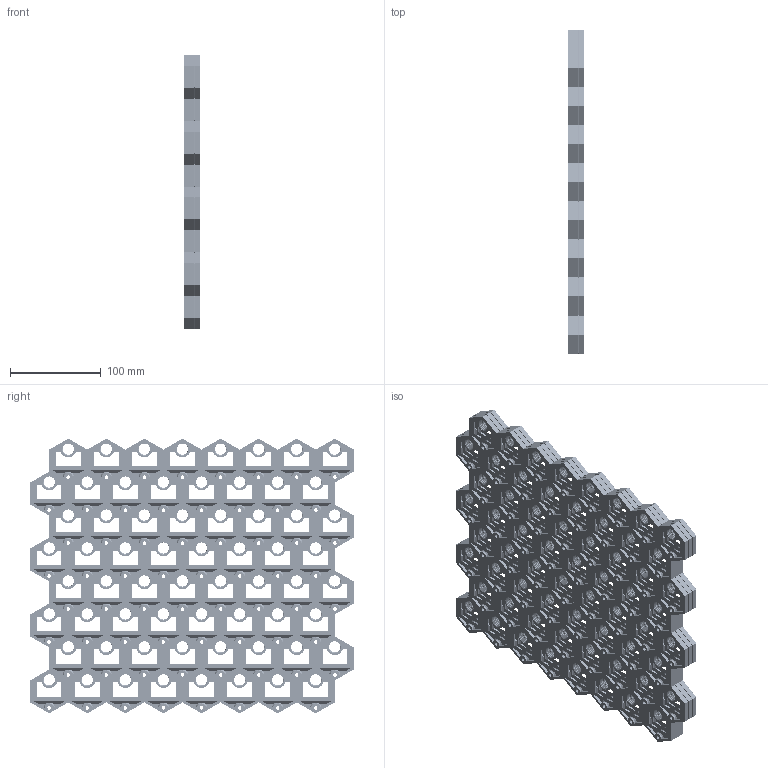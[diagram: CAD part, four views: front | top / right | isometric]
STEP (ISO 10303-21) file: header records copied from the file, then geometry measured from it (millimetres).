
FILE_DESCRIPTION(/* description */ ('','CAx-IF Rec.Pracs.---Representation and Presentation of Product Manufacturing Information (PMI)---4.0---2014-10-13'),/* implementation_level */ '2;1');
FILE_NAME(/* name */ 'GOEWS 8x8 Tile Stack with 0.2 Gaps.step',/* time_stamp */ '2024-11-29T15:34:54-05:00',/* author */ (''),/* organization */ (''),/* preprocessor_version */ 'ST-DEVELOPER v20',/* originating_system */ 'Autodesk Translation Framework v13.20.0.188',/* authorisation */ '');
FILE_SCHEMA (('AP242_MANAGED_MODEL_BASED_3D_ENGINEERING_MIM_LF { 1 0 10303 442 1 1 4 }'));
Products named in the file (1): GOEWS Parametric Tile Stack with Gaps
Bounding box: 18.4 x 357 x 303.11 mm (x, y, z)
Volume: 879900.2 mm3; surface area: 645346 mm2
Topology: 3 solids, 3 shells, 9981 faces, 27591 edges, 17808 vertices
Faces by surface type: plane 6717, cylinder 2304, cone 576, bspline 384
Full cylindrical faces by diameter (mm): 4 x192, 8 x192, 12.322 x384, 14.55 x384
Entity records: 538856 total; most frequent: CARTESIAN_POINT 291541, ORIENTED_EDGE 55182, DIRECTION 44867, EDGE_CURVE 27591, LINE 19527, VECTOR 19527, VERTEX_POINT 17808, AXIS2_PLACEMENT_3D 12670
